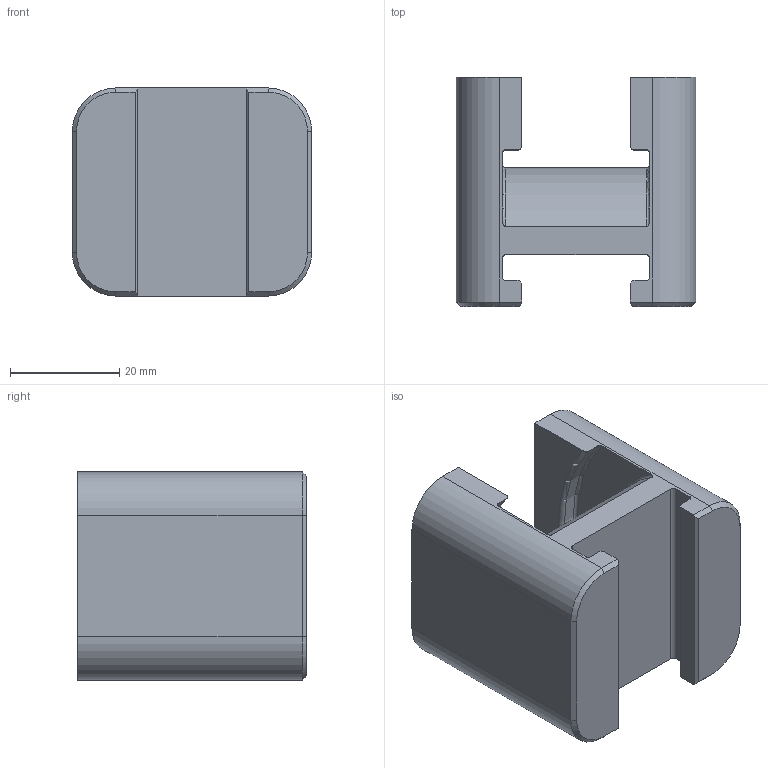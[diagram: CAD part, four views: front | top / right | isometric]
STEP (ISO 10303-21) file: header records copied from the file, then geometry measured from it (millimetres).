
FILE_DESCRIPTION (( 'STEP AP203' ), '1' );
FILE_NAME ('UCX175.step', '2025-04-18T18:15:46', ( '' ), ( '' ), 'SwSTEP 2.0', 'SolidWorks 2023', '' );
FILE_SCHEMA (( 'CONFIG_CONTROL_DESIGN' ));
Length unit declared in the file: inch
Products named in the file (1): UCX175
Bounding box: 43.81 x 41.91 x 38.1 mm (x, y, z)
Volume: 41411.2 mm3; surface area: 11125.4 mm2
Topology: 1 solids, 1 shells, 50 faces, 136 edges, 88 vertices
Faces by surface type: plane 29, cylinder 11, torus 6, cone 4
Entity records: 1719 total; most frequent: CARTESIAN_POINT 371, ORIENTED_EDGE 272, DIRECTION 258, EDGE_CURVE 136, VECTOR 92, LINE 92, VERTEX_POINT 88, AXIS2_PLACEMENT_3D 83
